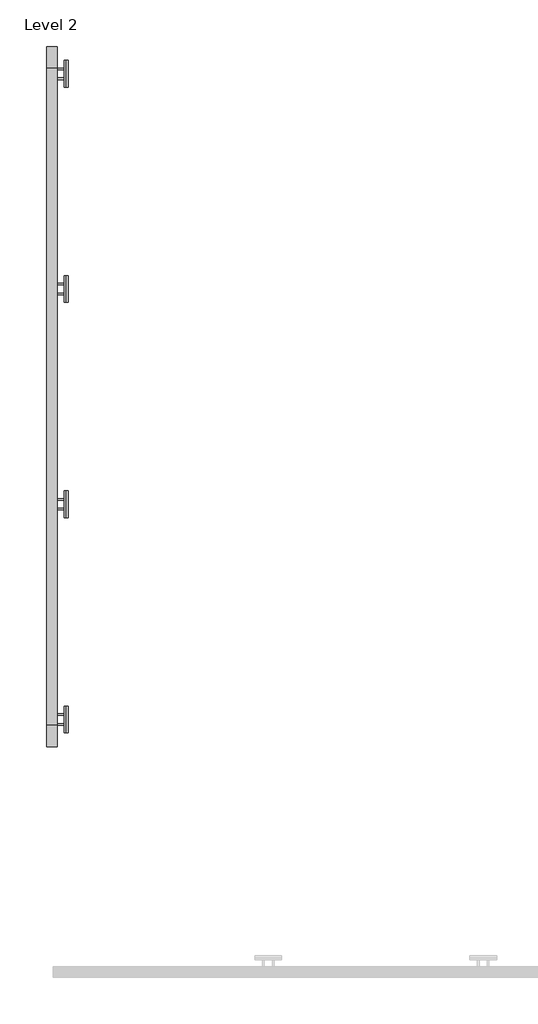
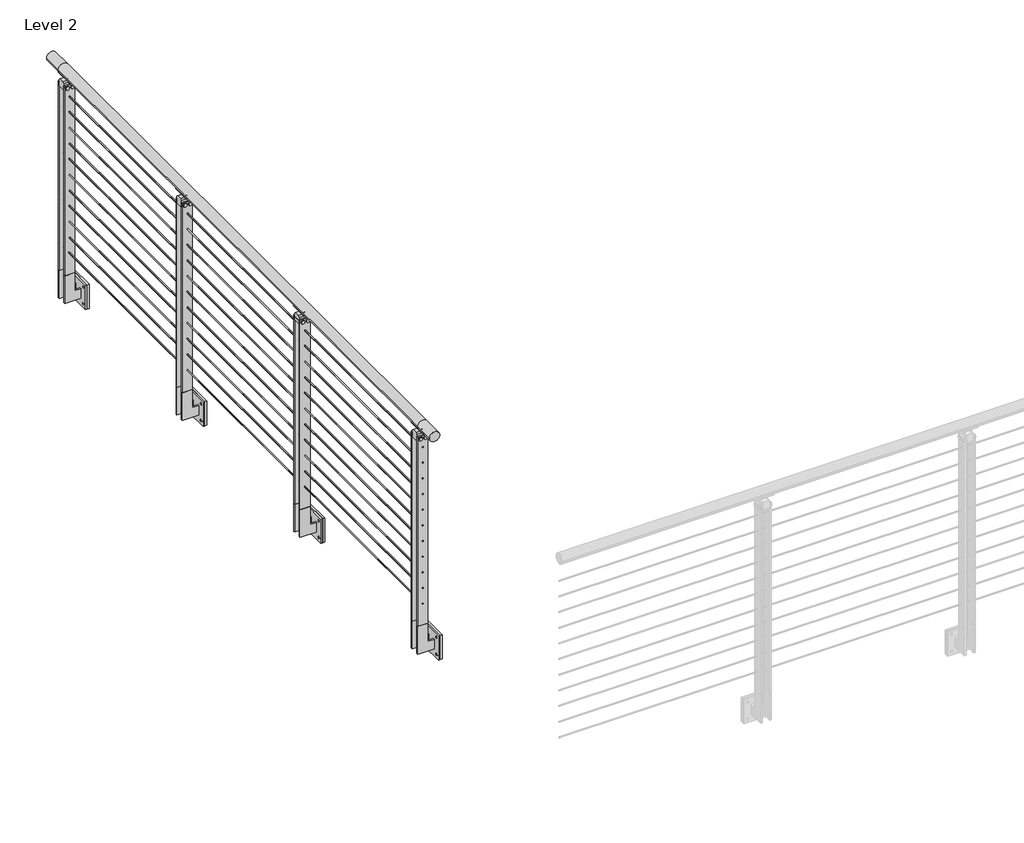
# One storey, part 5 of 31: 1 railing.
"""IFC4 building model written with IfcOpenShell, lengths in millimetres."""

from ifc_helpers import new_model, si_unit, point, frame, frame_2d, origin, place, context, project, spatial, polyline, circle_curve, trimmed, segment, composite_curve, outline, extrude, element, save
from ifc_brep_helpers import plane_surface, cylinder_surface, revolved_surface, advanced_brep

model = new_model("IFC4")

# Units and contexts
model_context = context("Model", 3, world=origin())
ifc_project = project(units=[si_unit("LENGTHUNIT", "METRE", prefix="MILLI")], contexts=[model_context])

# Site, building, storey
site = spatial("IfcSite", under=ifc_project)
building = spatial("IfcBuilding", under=site)
storey = spatial("IfcBuildingStorey", under=building, Name="Level 2", Elevation=3048.0)

# Railing
placement = place(None, origin())
element("IfcRailing", 1, ObjectType="VIVA-BLADE-Cable-Fascia Mount-Straight", at=placement, inside=storey, context=model_context, shape_type="SolidModel", body=[
    advanced_brep(
    [(-9214.9164794, -51256.5941551, 4102.1), (-9265.7164794, -51256.5941551, 4102.1), (-9214.9164794, -51154.9941551, 4102.1), (-9265.7164794, -51154.9941551, 4102.1), (-9214.9164794, -48053.4426165, 4102.1), (-9265.7164794, -48053.4426165, 4102.1), (-9214.9164794, -47951.8426165, 4102.1), (-9265.7164794, -47951.8426165, 4102.1)],
    [
        (0, 1, circle_curve(frame((-9240.3164794, -51256.5941551, 4102.1), z_axis=(0.0, -1.0, 0.0), x_axis=(-1.0, 0.0, 0.0)), 25.4)),
        (1, 0, circle_curve(frame((-9240.3164794, -51256.5941551, 4102.1), z_axis=(0.0, -1.0, 0.0), x_axis=(-1.0, 0.0, 0.0)), 25.4)),
        (0, 2),
        (2, 3, circle_curve(frame((-9240.3164794, -51154.9941551, 4102.1), z_axis=(0.0, -1.0, 0.0), x_axis=(-1.0, 0.0, 0.0)), 25.4)),
        (3, 1),
        (3, 2, circle_curve(frame((-9240.3164794, -51154.9941551, 4102.1), z_axis=(0.0, -1.0, 0.0), x_axis=(-1.0, 0.0, 0.0)), 25.4)),
        (2, 4),
        (4, 5, circle_curve(frame((-9240.3164794, -48053.4426165, 4102.1), z_axis=(0.0, -1.0, 0.0), x_axis=(-1.0, 0.0, 0.0)), 25.4)),
        (5, 3),
        (5, 4, circle_curve(frame((-9240.3164794, -48053.4426165, 4102.1), z_axis=(0.0, -1.0, 0.0), x_axis=(-1.0, 0.0, 0.0)), 25.4)),
        (6, 7, circle_curve(frame((-9240.3164794, -47951.8426165, 4102.1), z_axis=(0.0, 1.0, 0.0), x_axis=(-1.0, 0.0, 0.0)), 25.4)),
        (7, 6, circle_curve(frame((-9240.3164794, -47951.8426165, 4102.1), z_axis=(0.0, 1.0, 0.0), x_axis=(-1.0, 0.0, 0.0)), 25.4)),
        (4, 6),
        (7, 5),
    ],
    [
        plane_surface(frame((-9240.3164794, -51256.5941551, 4127.5), z_axis=(0.0, -1.0, 0.0), x_axis=(0.0, 0.0, 1.0))),
        cylinder_surface(frame((-9240.3164794, -51256.5941551, 4102.1), z_axis=(0.0, -1.0, 0.0), x_axis=(-1.0, 0.0, 0.0)), 25.4),
        cylinder_surface(frame((-9240.3164794, -51154.9941551, 4102.1), z_axis=(0.0, -1.0, 0.0), x_axis=(-1.0, 0.0, 0.0)), 25.4),
        plane_surface(frame((-9240.3164794, -47951.8426165, 4127.5), z_axis=(0.0, 1.0, 0.0), x_axis=(0.0, 0.0, 1.0))),
        cylinder_surface(frame((-9240.3164794, -48053.4426165, 4102.1), z_axis=(0.0, -1.0, 0.0), x_axis=(-1.0, 0.0, 0.0)), 25.4),
    ],
    [
        (0, [[1, 2]]),
        (1, [[-1, 3, 4, 5]]),
        (1, [[-2, -5, 6, -3]]),
        (2, [[-4, 7, 8, 9]]),
        (2, [[-6, -9, 10, -7]]),
        (3, [[11, 12]]),
        (4, [[-8, 13, -12, 14]]),
        (4, [[-10, -14, -11, -13]]),
    ],
),
    extrude(outline(composite_curve([segment(trimmed(circle_curve(frame_2d((3985.4124, -9240.3164794)), 2.3876), [point((3985.4124, -9237.9288794))], [point((3985.4124, -9242.7040794))], False, "CARTESIAN"), True, "CONTINUOUS"), segment(trimmed(circle_curve(frame_2d((3985.4124, -9240.3164794)), 2.3876), [point((3985.4124, -9242.7040794))], [point((3985.4124, -9237.9288794))], False, "CARTESIAN"), True, "CONTINUOUS")], self_intersect=False)), frame((0.0, -51154.9941551, 0.0), z_axis=(0.0, 1.0, 0.0), x_axis=(0.0, 0.0, 1.0)), (0.0, 0.0, 1.0), 3101.5515385),
    extrude(outline(composite_curve([segment(trimmed(circle_curve(frame_2d((3902.8624, -9240.3164794)), 2.3876), [point((3902.8624, -9237.9288794))], [point((3902.8624, -9242.7040794))], False, "CARTESIAN"), True, "CONTINUOUS"), segment(trimmed(circle_curve(frame_2d((3902.8624, -9240.3164794)), 2.3876), [point((3902.8624, -9242.7040794))], [point((3902.8624, -9237.9288794))], False, "CARTESIAN"), True, "CONTINUOUS")], self_intersect=False)), frame((0.0, -51154.9941551, 0.0), z_axis=(0.0, 1.0, 0.0), x_axis=(0.0, 0.0, 1.0)), (0.0, 0.0, 1.0), 3101.5515385),
    extrude(outline(composite_curve([segment(trimmed(circle_curve(frame_2d((3820.3124, -9240.3164794)), 2.3876), [point((3820.3124, -9237.9288794))], [point((3820.3124, -9242.7040794))], False, "CARTESIAN"), True, "CONTINUOUS"), segment(trimmed(circle_curve(frame_2d((3820.3124, -9240.3164794)), 2.3876), [point((3820.3124, -9242.7040794))], [point((3820.3124, -9237.9288794))], False, "CARTESIAN"), True, "CONTINUOUS")], self_intersect=False)), frame((0.0, -51154.9941551, 0.0), z_axis=(0.0, 1.0, 0.0), x_axis=(0.0, 0.0, 1.0)), (0.0, 0.0, 1.0), 3101.5515385),
    extrude(outline(composite_curve([segment(trimmed(circle_curve(frame_2d((3737.7624, -9240.3164794)), 2.3876), [point((3737.7624, -9237.9288794))], [point((3737.7624, -9242.7040794))], False, "CARTESIAN"), True, "CONTINUOUS"), segment(trimmed(circle_curve(frame_2d((3737.7624, -9240.3164794)), 2.3876), [point((3737.7624, -9242.7040794))], [point((3737.7624, -9237.9288794))], False, "CARTESIAN"), True, "CONTINUOUS")], self_intersect=False)), frame((0.0, -51154.9941551, 0.0), z_axis=(0.0, 1.0, 0.0), x_axis=(0.0, 0.0, 1.0)), (0.0, 0.0, 1.0), 3101.5515385),
    extrude(outline(composite_curve([segment(trimmed(circle_curve(frame_2d((3655.2124, -9240.3164794)), 2.3876), [point((3655.2124, -9237.9288794))], [point((3655.2124, -9242.7040794))], False, "CARTESIAN"), True, "CONTINUOUS"), segment(trimmed(circle_curve(frame_2d((3655.2124, -9240.3164794)), 2.3876), [point((3655.2124, -9242.7040794))], [point((3655.2124, -9237.9288794))], False, "CARTESIAN"), True, "CONTINUOUS")], self_intersect=False)), frame((0.0, -51154.9941551, 0.0), z_axis=(0.0, 1.0, 0.0), x_axis=(0.0, 0.0, 1.0)), (0.0, 0.0, 1.0), 3101.5515385),
    extrude(outline(composite_curve([segment(trimmed(circle_curve(frame_2d((3572.6624, -9240.3164794)), 2.3876), [point((3572.6624, -9237.9288794))], [point((3572.6624, -9242.7040794))], False, "CARTESIAN"), True, "CONTINUOUS"), segment(trimmed(circle_curve(frame_2d((3572.6624, -9240.3164794)), 2.3876), [point((3572.6624, -9242.7040794))], [point((3572.6624, -9237.9288794))], False, "CARTESIAN"), True, "CONTINUOUS")], self_intersect=False)), frame((0.0, -51154.9941551, 0.0), z_axis=(0.0, 1.0, 0.0), x_axis=(0.0, 0.0, 1.0)), (0.0, 0.0, 1.0), 3101.5515385),
    extrude(outline(composite_curve([segment(trimmed(circle_curve(frame_2d((3490.1124, -9240.3164794)), 2.3876), [point((3490.1124, -9237.9288794))], [point((3490.1124, -9242.7040794))], False, "CARTESIAN"), True, "CONTINUOUS"), segment(trimmed(circle_curve(frame_2d((3490.1124, -9240.3164794)), 2.3876), [point((3490.1124, -9242.7040794))], [point((3490.1124, -9237.9288794))], False, "CARTESIAN"), True, "CONTINUOUS")], self_intersect=False)), frame((0.0, -51154.9941551, 0.0), z_axis=(0.0, 1.0, 0.0), x_axis=(0.0, 0.0, 1.0)), (0.0, 0.0, 1.0), 3101.5515385),
    extrude(outline(composite_curve([segment(trimmed(circle_curve(frame_2d((3407.5624, -9240.3164794)), 2.3876), [point((3407.5624, -9237.9288794))], [point((3407.5624, -9242.7040794))], False, "CARTESIAN"), True, "CONTINUOUS"), segment(trimmed(circle_curve(frame_2d((3407.5624, -9240.3164794)), 2.3876), [point((3407.5624, -9242.7040794))], [point((3407.5624, -9237.9288794))], False, "CARTESIAN"), True, "CONTINUOUS")], self_intersect=False)), frame((0.0, -51154.9941551, 0.0), z_axis=(0.0, 1.0, 0.0), x_axis=(0.0, 0.0, 1.0)), (0.0, 0.0, 1.0), 3101.5515385),
    extrude(outline(composite_curve([segment(trimmed(circle_curve(frame_2d((3325.0124, -9240.3164794)), 2.3876), [point((3325.0124, -9237.9288794))], [point((3325.0124, -9242.7040794))], False, "CARTESIAN"), True, "CONTINUOUS"), segment(trimmed(circle_curve(frame_2d((3325.0124, -9240.3164794)), 2.3876), [point((3325.0124, -9242.7040794))], [point((3325.0124, -9237.9288794))], False, "CARTESIAN"), True, "CONTINUOUS")], self_intersect=False)), frame((0.0, -51154.9941551, 0.0), z_axis=(0.0, 1.0, 0.0), x_axis=(0.0, 0.0, 1.0)), (0.0, 0.0, 1.0), 3101.5515385),
    extrude(outline(composite_curve([segment(trimmed(circle_curve(frame_2d((3242.4624, -9240.3164794)), 2.3876), [point((3242.4624, -9237.9288794))], [point((3242.4624, -9242.7040794))], False, "CARTESIAN"), True, "CONTINUOUS"), segment(trimmed(circle_curve(frame_2d((3242.4624, -9240.3164794)), 2.3876), [point((3242.4624, -9242.7040794))], [point((3242.4624, -9237.9288794))], False, "CARTESIAN"), True, "CONTINUOUS")], self_intersect=False)), frame((0.0, -51154.9941551, 0.0), z_axis=(0.0, 1.0, 0.0), x_axis=(0.0, 0.0, 1.0)), (0.0, 0.0, 1.0), 3101.5515385),
    extrude(outline(composite_curve([segment(trimmed(circle_curve(frame_2d((3159.9124, -9240.3164794)), 2.3876), [point((3159.9124, -9237.9288794))], [point((3159.9124, -9242.7040794))], False, "CARTESIAN"), True, "CONTINUOUS"), segment(trimmed(circle_curve(frame_2d((3159.9124, -9240.3164794)), 2.3876), [point((3159.9124, -9242.7040794))], [point((3159.9124, -9237.9288794))], False, "CARTESIAN"), True, "CONTINUOUS")], self_intersect=False)), frame((0.0, -51154.9941551, 0.0), z_axis=(0.0, 1.0, 0.0), x_axis=(0.0, 0.0, 1.0)), (0.0, 0.0, 1.0), 3101.5515385),
    extrude(outline(polyline([(2901.95, -9265.7190073), (2901.95, -9183.1662737), (2952.75, -9183.1662737), (2952.75, -9214.9190073), (3048.0, -9214.9190073), (3048.0, -9265.7190073), (2901.95, -9265.7190073)])), frame((0.0, -48107.2932215, 0.0), z_axis=(0.0, 1.0, 0.0), x_axis=(0.0, 0.0, 1.0)), (0.0, 0.0, 1.0), 8.0248357),
    extrude(outline(polyline([(3048.0, -9214.9190073), (3048.0, -9265.7190073), (2901.95, -9265.7190073), (2901.95, -9183.1662737), (2952.75, -9183.1662737), (2952.75, -9214.9190073), (3048.0, -9214.9190073)])), frame((0.0, -48061.1684238, 0.0), z_axis=(0.0, 1.0, 0.0), x_axis=(0.0, 0.0, 1.0)), (0.0, 0.0, 1.0), 8.001),
    advanced_brep(
    [(-9227.5563557, -48034.9809858, 4080.0967655), (-9223.7204583, -48034.9809858, 4075.707533), (-9255.2373506, -48034.9809858, 4075.1267745), (-9252.4284203, -48034.9809858, 4079.9535285), (-9227.5563557, -48125.4557858, 4080.0967655), (-9252.5153924, -48125.4557858, 4080.0018447), (-9255.351144, -48125.4557858, 4075.1893964), (-9223.7204583, -48125.4557858, 4075.707533)],
    [
        (0, 1, circle_curve(frame((-9226.0087981, -48034.9809858, 4077.5784521), z_axis=(0.0, 1.0, 0.0), x_axis=(1.0, 0.0, 0.0)), 2.9558141)),
        (1, 2, circle_curve(frame((-9239.9866956, -48034.9809858, 4102.9742164), z_axis=(0.0, 1.0, 0.0), x_axis=(1.0, 0.0, 0.0)), 31.75)),
        (2, 3, circle_curve(frame((-9253.7600455, -48034.9809858, 4077.4993599), z_axis=(0.0, 1.0, 0.0), x_axis=(1.0, 0.0, 0.0)), 2.7949225)),
        (3, 0, circle_curve(frame((-9240.1201586, -48034.9809858, 4102.2115898), z_axis=(0.0, -1.0, 0.0), x_axis=(1.0, 0.0, 0.0)), 25.4345159)),
        (4, 5, circle_curve(frame((-9240.1201586, -48125.4557858, 4102.2115898), z_axis=(0.0, 1.0, 0.0), x_axis=(1.0, 0.0, 0.0)), 25.4345159)),
        (5, 6, circle_curve(frame((-9253.7600455, -48125.4557858, 4077.4993599), z_axis=(0.0, -1.0, 0.0), x_axis=(1.0, 0.0, 0.0)), 2.7949225)),
        (6, 7, circle_curve(frame((-9239.9866956, -48125.4557858, 4102.9742164), z_axis=(0.0, -1.0, 0.0), x_axis=(1.0, 0.0, 0.0)), 31.75)),
        (7, 4, circle_curve(frame((-9226.0087981, -48125.4557858, 4077.5784521), z_axis=(0.0, -1.0, 0.0), x_axis=(1.0, 0.0, 0.0)), 2.9558141)),
        (3, 5),
        (4, 0),
        (2, 6),
        (1, 7),
    ],
    [
        plane_surface(frame((-9214.6856428, -48034.9809858, 4102.2115898), z_axis=(0.0, 1.0, 0.0), x_axis=(0.0, 0.0, -1.0))),
        plane_surface(frame((-9214.6856428, -48125.4557858, 4102.2115898), z_axis=(0.0, -1.0, 0.0), x_axis=(0.0, 0.0, 1.0))),
        revolved_surface(polyline([(-9214.6856427, -48125.4557858, 4102.2115898), (-9214.6856427, -48034.9809858, 4102.2115898)]), (-9240.1201586, -48125.4557858, 4102.2115898), (0.0, -1.0, 0.0)),
        cylinder_surface(frame((-9253.7600455, -48125.4557858, 4077.4993599), z_axis=(0.0, 1.0, 0.0), x_axis=(1.0, 0.0, 0.0)), 2.7949225),
        cylinder_surface(frame((-9239.9866956, -48125.4557858, 4102.9742164), z_axis=(0.0, 1.0, 0.0), x_axis=(1.0, 0.0, 0.0)), 31.75),
        cylinder_surface(frame((-9226.0087981, -48125.4557858, 4077.5784521), z_axis=(0.0, 1.0, 0.0), x_axis=(1.0, 0.0, 0.0)), 2.9558141),
    ],
    [
        (0, [[1, 2, 3, 4]]),
        (1, [[5, 6, 7, 8]]),
        (2, [[9, -5, 10, -4]]),
        (3, [[11, -6, -9, -3]]),
        (4, [[12, -7, -11, -2]]),
        (5, [[-10, -8, -12, -1]]),
    ],
),
    extrude(outline(polyline([(-9164.1162737, -48016.7303227), (-9164.1162737, -48143.7303227), (-9173.6412737, -48143.7303227), (-9173.6412737, -48016.7303227), (-9164.1162737, -48016.7303227)])), frame((0.0, 0.0, 2863.85), z_axis=(0.0, 0.0, 1.0), x_axis=(1.0, 0.0, 0.0)), (0.0, 0.0, 1.0), 127.0),
    extrude(outline(composite_curve([segment(polyline([(-48067.5183858, 4062.4125), (-48092.9183858, 4062.4125)]), True, "CONTINUOUS"), segment(trimmed(circle_curve(frame_2d((-48107.2863007, 4062.4125)), 14.3679149), [point((-48092.9183858, 4062.4125))], [point((-48107.2863007, 4076.7804149))], True, "CARTESIAN"), True, "CONTINUOUS"), segment(polyline([(-48107.2863007, 4076.7804149), (-48053.1504709, 4076.7804149)]), True, "CONTINUOUS"), segment(trimmed(circle_curve(frame_2d((-48053.1504709, 4062.4125)), 14.3679149), [point((-48053.1504709, 4076.7804149))], [point((-48067.5183858, 4062.4125))], True, "CARTESIAN"), True, "CONTINUOUS")], self_intersect=False)), frame((-9242.8564794, 0.0, 0.0), z_axis=(1.0, 0.0, 0.0), x_axis=(0.0, 1.0, 0.0)), (0.0, 0.0, 1.0), 5.08),
    extrude(outline(polyline([(-9214.9166827, -48107.2932215), (-9265.7190073, -48107.2932215), (-9265.7190073, -48099.2683858), (-9214.9166827, -48099.2683858), (-9214.9166827, -48107.2932215)])), frame((0.0, 0.0, 3048.0), z_axis=(0.0, 0.0, 1.0), x_axis=(1.0, 0.0, 0.0)), (0.0, 0.0, 1.0), 996.95),
    extrude(outline(polyline([(-48143.7303227, 2863.85), (-48143.7303227, 2990.85), (-48016.7303227, 2990.85), (-48016.7303227, 2863.85), (-48143.7303227, 2863.85)]), holes=[composite_curve([segment(trimmed(circle_curve(frame_2d((-48124.6803227, 2971.8)), 4.7068371), [point((-48119.9734856, 2971.8))], [point((-48129.3871597, 2971.8))], True, "CARTESIAN"), True, "CONTINUOUS"), segment(trimmed(circle_curve(frame_2d((-48124.6803227, 2971.8)), 4.7068371), [point((-48129.3871597, 2971.8))], [point((-48119.9734856, 2971.8))], True, "CARTESIAN"), True, "CONTINUOUS")], self_intersect=False), composite_curve([segment(trimmed(circle_curve(frame_2d((-48035.7803227, 2971.8)), 4.7068371), [point((-48031.0734856, 2971.8))], [point((-48040.4871597, 2971.8))], True, "CARTESIAN"), True, "CONTINUOUS"), segment(trimmed(circle_curve(frame_2d((-48035.7803227, 2971.8)), 4.7068371), [point((-48040.4871597, 2971.8))], [point((-48031.0734856, 2971.8))], True, "CARTESIAN"), True, "CONTINUOUS")], self_intersect=False), composite_curve([segment(trimmed(circle_curve(frame_2d((-48035.7803227, 2882.9)), 4.7068371), [point((-48031.0734856, 2882.9))], [point((-48040.4871597, 2882.9))], True, "CARTESIAN"), True, "CONTINUOUS"), segment(trimmed(circle_curve(frame_2d((-48035.7803227, 2882.9)), 4.7068371), [point((-48040.4871597, 2882.9))], [point((-48031.0734856, 2882.9))], True, "CARTESIAN"), True, "CONTINUOUS")], self_intersect=False), composite_curve([segment(trimmed(circle_curve(frame_2d((-48124.6803227, 2882.9)), 4.7068371), [point((-48119.9734856, 2882.9))], [point((-48129.3871597, 2882.9))], True, "CARTESIAN"), True, "CONTINUOUS"), segment(trimmed(circle_curve(frame_2d((-48124.6803227, 2882.9)), 4.7068371), [point((-48129.3871597, 2882.9))], [point((-48119.9734856, 2882.9))], True, "CARTESIAN"), True, "CONTINUOUS")], self_intersect=False)]), frame((-9183.1662737, 0.0, 0.0), z_axis=(1.0, 0.0, 0.0), x_axis=(0.0, 1.0, 0.0)), (0.0, 0.0, 1.0), 9.525),
    extrude(outline(composite_curve([segment(trimmed(circle_curve(frame_2d((4034.0416929, -9253.0189563)), 8.89), [point((4034.0416929, -9261.9089563))], [point((4034.0416929, -9244.1289563))], False, "CARTESIAN"), True, "CONTINUOUS"), segment(trimmed(circle_curve(frame_2d((4034.0416929, -9253.0189563)), 8.89), [point((4034.0416929, -9244.1289563))], [point((4034.0416929, -9261.9089563))], False, "CARTESIAN"), True, "CONTINUOUS")], self_intersect=False)), frame((0.0, -48111.9683858, 0.0), z_axis=(0.0, 1.0, 0.0), x_axis=(0.0, 0.0, 1.0)), (0.0, 0.0, 1.0), 63.4880631),
    extrude(outline(composite_curve([segment(trimmed(circle_curve(frame_2d((4034.0416929, -9227.6190583)), 8.89), [point((4034.0416929, -9236.5090583))], [point((4034.0416929, -9218.7290583))], False, "CARTESIAN"), True, "CONTINUOUS"), segment(trimmed(circle_curve(frame_2d((4034.0416929, -9227.6190583)), 8.89), [point((4034.0416929, -9218.7290583))], [point((4034.0416929, -9236.5090583))], False, "CARTESIAN"), True, "CONTINUOUS")], self_intersect=False)), frame((0.0, -48111.9683858, 0.0), z_axis=(0.0, 1.0, 0.0), x_axis=(0.0, 0.0, 1.0)), (0.0, 0.0, 1.0), 63.4880631),
    extrude(outline(polyline([(-48099.2683858, 4022.7123), (-48099.2683858, 4056.0625), (-48092.9183858, 4062.4125), (-48067.5183858, 4062.4125), (-48061.1683858, 4056.0625), (-48061.1683858, 4022.7123), (-48099.2683858, 4022.7123)])), frame((-9265.7190073, 0.0, 0.0), z_axis=(1.0, 0.0, 0.0), x_axis=(0.0, 1.0, 0.0)), (0.0, 0.0, 1.0), 50.8025279),
    extrude(outline(polyline([(-9214.9166827, -48061.1684238), (-9265.7190073, -48061.1684238), (-9265.7190073, -48053.1674238), (-9214.9166827, -48053.1674238), (-9214.9166827, -48061.1684238)])), frame((0.0, 0.0, 3048.0), z_axis=(0.0, 0.0, 1.0), x_axis=(1.0, 0.0, 0.0)), (0.0, 0.0, 1.0), 996.95),
    extrude(outline(polyline([(2901.95, -9265.7190073), (2901.95, -9183.1662737), (2952.75, -9183.1662737), (2952.75, -9214.9190073), (3048.0, -9214.9190073), (3048.0, -9265.7190073), (2901.95, -9265.7190073)])), frame((0.0, -49123.2932215, 0.0), z_axis=(0.0, 1.0, 0.0), x_axis=(0.0, 0.0, 1.0)), (0.0, 0.0, 1.0), 8.0248357),
    extrude(outline(polyline([(3048.0, -9214.9190073), (3048.0, -9265.7190073), (2901.95, -9265.7190073), (2901.95, -9183.1662737), (2952.75, -9183.1662737), (2952.75, -9214.9190073), (3048.0, -9214.9190073)])), frame((0.0, -49077.1684238, 0.0), z_axis=(0.0, 1.0, 0.0), x_axis=(0.0, 0.0, 1.0)), (0.0, 0.0, 1.0), 8.001),
    advanced_brep(
    [(-9227.5563557, -49050.9809858, 4080.0967655), (-9223.7204583, -49050.9809858, 4075.707533), (-9255.2373506, -49050.9809858, 4075.1267745), (-9252.4284203, -49050.9809858, 4079.9535285), (-9227.5563557, -49141.4557858, 4080.0967655), (-9252.5153924, -49141.4557858, 4080.0018447), (-9255.351144, -49141.4557858, 4075.1893964), (-9223.7204583, -49141.4557858, 4075.707533)],
    [
        (0, 1, circle_curve(frame((-9226.0087981, -49050.9809858, 4077.5784521), z_axis=(0.0, 1.0, 0.0), x_axis=(1.0, 0.0, 0.0)), 2.9558141)),
        (1, 2, circle_curve(frame((-9239.9866956, -49050.9809858, 4102.9742164), z_axis=(0.0, 1.0, 0.0), x_axis=(1.0, 0.0, 0.0)), 31.75)),
        (2, 3, circle_curve(frame((-9253.7600455, -49050.9809858, 4077.4993599), z_axis=(0.0, 1.0, 0.0), x_axis=(1.0, 0.0, 0.0)), 2.7949225)),
        (3, 0, circle_curve(frame((-9240.1201586, -49050.9809858, 4102.2115898), z_axis=(0.0, -1.0, 0.0), x_axis=(1.0, 0.0, 0.0)), 25.4345159)),
        (4, 5, circle_curve(frame((-9240.1201586, -49141.4557858, 4102.2115898), z_axis=(0.0, 1.0, 0.0), x_axis=(1.0, 0.0, 0.0)), 25.4345159)),
        (5, 6, circle_curve(frame((-9253.7600455, -49141.4557858, 4077.4993599), z_axis=(0.0, -1.0, 0.0), x_axis=(1.0, 0.0, 0.0)), 2.7949225)),
        (6, 7, circle_curve(frame((-9239.9866956, -49141.4557858, 4102.9742164), z_axis=(0.0, -1.0, 0.0), x_axis=(1.0, 0.0, 0.0)), 31.75)),
        (7, 4, circle_curve(frame((-9226.0087981, -49141.4557858, 4077.5784521), z_axis=(0.0, -1.0, 0.0), x_axis=(1.0, 0.0, 0.0)), 2.9558141)),
        (3, 5),
        (4, 0),
        (2, 6),
        (1, 7),
    ],
    [
        plane_surface(frame((-9214.6856428, -49050.9809858, 4102.2115898), z_axis=(0.0, 1.0, 0.0), x_axis=(0.0, 0.0, -1.0))),
        plane_surface(frame((-9214.6856428, -49141.4557858, 4102.2115898), z_axis=(0.0, -1.0, 0.0), x_axis=(0.0, 0.0, 1.0))),
        revolved_surface(polyline([(-9214.6856427, -49141.4557858, 4102.2115898), (-9214.6856427, -49050.9809858, 4102.2115898)]), (-9240.1201586, -49141.4557858, 4102.2115898), (0.0, -1.0, 0.0)),
        cylinder_surface(frame((-9253.7600455, -49141.4557858, 4077.4993599), z_axis=(0.0, 1.0, 0.0), x_axis=(1.0, 0.0, 0.0)), 2.7949225),
        cylinder_surface(frame((-9239.9866956, -49141.4557858, 4102.9742164), z_axis=(0.0, 1.0, 0.0), x_axis=(1.0, 0.0, 0.0)), 31.75),
        cylinder_surface(frame((-9226.0087981, -49141.4557858, 4077.5784521), z_axis=(0.0, 1.0, 0.0), x_axis=(1.0, 0.0, 0.0)), 2.9558141),
    ],
    [
        (0, [[1, 2, 3, 4]]),
        (1, [[5, 6, 7, 8]]),
        (2, [[9, -5, 10, -4]]),
        (3, [[11, -6, -9, -3]]),
        (4, [[12, -7, -11, -2]]),
        (5, [[-10, -8, -12, -1]]),
    ],
),
    extrude(outline(polyline([(-9164.1162737, -49032.7303227), (-9164.1162737, -49159.7303227), (-9173.6412737, -49159.7303227), (-9173.6412737, -49032.7303227), (-9164.1162737, -49032.7303227)])), frame((0.0, 0.0, 2863.85), z_axis=(0.0, 0.0, 1.0), x_axis=(1.0, 0.0, 0.0)), (0.0, 0.0, 1.0), 127.0),
    extrude(outline(composite_curve([segment(polyline([(-49083.5183858, 4062.4125), (-49108.9183858, 4062.4125)]), True, "CONTINUOUS"), segment(trimmed(circle_curve(frame_2d((-49123.2863007, 4062.4125)), 14.3679149), [point((-49108.9183858, 4062.4125))], [point((-49123.2863007, 4076.7804149))], True, "CARTESIAN"), True, "CONTINUOUS"), segment(polyline([(-49123.2863007, 4076.7804149), (-49069.1504709, 4076.7804149)]), True, "CONTINUOUS"), segment(trimmed(circle_curve(frame_2d((-49069.1504709, 4062.4125)), 14.3679149), [point((-49069.1504709, 4076.7804149))], [point((-49083.5183858, 4062.4125))], True, "CARTESIAN"), True, "CONTINUOUS")], self_intersect=False)), frame((-9242.8564794, 0.0, 0.0), z_axis=(1.0, 0.0, 0.0), x_axis=(0.0, 1.0, 0.0)), (0.0, 0.0, 1.0), 5.08),
    extrude(outline(polyline([(-9214.9166827, -49123.2932215), (-9265.7190073, -49123.2932215), (-9265.7190073, -49115.2683858), (-9214.9166827, -49115.2683858), (-9214.9166827, -49123.2932215)])), frame((0.0, 0.0, 3048.0), z_axis=(0.0, 0.0, 1.0), x_axis=(1.0, 0.0, 0.0)), (0.0, 0.0, 1.0), 996.95),
    extrude(outline(polyline([(-49159.7303227, 2863.85), (-49159.7303227, 2990.85), (-49032.7303227, 2990.85), (-49032.7303227, 2863.85), (-49159.7303227, 2863.85)]), holes=[composite_curve([segment(trimmed(circle_curve(frame_2d((-49140.6803227, 2971.8)), 4.7068371), [point((-49135.9734856, 2971.8))], [point((-49145.3871597, 2971.8))], True, "CARTESIAN"), True, "CONTINUOUS"), segment(trimmed(circle_curve(frame_2d((-49140.6803227, 2971.8)), 4.7068371), [point((-49145.3871597, 2971.8))], [point((-49135.9734856, 2971.8))], True, "CARTESIAN"), True, "CONTINUOUS")], self_intersect=False), composite_curve([segment(trimmed(circle_curve(frame_2d((-49051.7803227, 2971.8)), 4.7068371), [point((-49047.0734856, 2971.8))], [point((-49056.4871597, 2971.8))], True, "CARTESIAN"), True, "CONTINUOUS"), segment(trimmed(circle_curve(frame_2d((-49051.7803227, 2971.8)), 4.7068371), [point((-49056.4871597, 2971.8))], [point((-49047.0734856, 2971.8))], True, "CARTESIAN"), True, "CONTINUOUS")], self_intersect=False), composite_curve([segment(trimmed(circle_curve(frame_2d((-49051.7803227, 2882.9)), 4.7068371), [point((-49047.0734856, 2882.9))], [point((-49056.4871597, 2882.9))], True, "CARTESIAN"), True, "CONTINUOUS"), segment(trimmed(circle_curve(frame_2d((-49051.7803227, 2882.9)), 4.7068371), [point((-49056.4871597, 2882.9))], [point((-49047.0734856, 2882.9))], True, "CARTESIAN"), True, "CONTINUOUS")], self_intersect=False), composite_curve([segment(trimmed(circle_curve(frame_2d((-49140.6803227, 2882.9)), 4.7068371), [point((-49135.9734856, 2882.9))], [point((-49145.3871597, 2882.9))], True, "CARTESIAN"), True, "CONTINUOUS"), segment(trimmed(circle_curve(frame_2d((-49140.6803227, 2882.9)), 4.7068371), [point((-49145.3871597, 2882.9))], [point((-49135.9734856, 2882.9))], True, "CARTESIAN"), True, "CONTINUOUS")], self_intersect=False)]), frame((-9183.1662737, 0.0, 0.0), z_axis=(1.0, 0.0, 0.0), x_axis=(0.0, 1.0, 0.0)), (0.0, 0.0, 1.0), 9.525),
    extrude(outline(composite_curve([segment(trimmed(circle_curve(frame_2d((4034.0416929, -9253.0189563)), 8.89), [point((4034.0416929, -9261.9089563))], [point((4034.0416929, -9244.1289563))], False, "CARTESIAN"), True, "CONTINUOUS"), segment(trimmed(circle_curve(frame_2d((4034.0416929, -9253.0189563)), 8.89), [point((4034.0416929, -9244.1289563))], [point((4034.0416929, -9261.9089563))], False, "CARTESIAN"), True, "CONTINUOUS")], self_intersect=False)), frame((0.0, -49127.9683858, 0.0), z_axis=(0.0, 1.0, 0.0), x_axis=(0.0, 0.0, 1.0)), (0.0, 0.0, 1.0), 63.4880631),
    extrude(outline(composite_curve([segment(trimmed(circle_curve(frame_2d((4034.0416929, -9227.6190583)), 8.89), [point((4034.0416929, -9236.5090583))], [point((4034.0416929, -9218.7290583))], False, "CARTESIAN"), True, "CONTINUOUS"), segment(trimmed(circle_curve(frame_2d((4034.0416929, -9227.6190583)), 8.89), [point((4034.0416929, -9218.7290583))], [point((4034.0416929, -9236.5090583))], False, "CARTESIAN"), True, "CONTINUOUS")], self_intersect=False)), frame((0.0, -49127.9683858, 0.0), z_axis=(0.0, 1.0, 0.0), x_axis=(0.0, 0.0, 1.0)), (0.0, 0.0, 1.0), 63.4880631),
    extrude(outline(polyline([(-49115.2683858, 4022.7123), (-49115.2683858, 4056.0625), (-49108.9183858, 4062.4125), (-49083.5183858, 4062.4125), (-49077.1683858, 4056.0625), (-49077.1683858, 4022.7123), (-49115.2683858, 4022.7123)])), frame((-9265.7190073, 0.0, 0.0), z_axis=(1.0, 0.0, 0.0), x_axis=(0.0, 1.0, 0.0)), (0.0, 0.0, 1.0), 50.8025279),
    extrude(outline(polyline([(-9214.9166827, -49077.1684238), (-9265.7190073, -49077.1684238), (-9265.7190073, -49069.1674238), (-9214.9166827, -49069.1674238), (-9214.9166827, -49077.1684238)])), frame((0.0, 0.0, 3048.0), z_axis=(0.0, 0.0, 1.0), x_axis=(1.0, 0.0, 0.0)), (0.0, 0.0, 1.0), 996.95),
    extrude(outline(polyline([(2901.95, -9265.7190073), (2901.95, -9183.1662737), (2952.75, -9183.1662737), (2952.75, -9214.9190073), (3048.0, -9214.9190073), (3048.0, -9265.7190073), (2901.95, -9265.7190073)])), frame((0.0, -50139.2932215, 0.0), z_axis=(0.0, 1.0, 0.0), x_axis=(0.0, 0.0, 1.0)), (0.0, 0.0, 1.0), 8.0248357),
    extrude(outline(polyline([(3048.0, -9214.9190073), (3048.0, -9265.7190073), (2901.95, -9265.7190073), (2901.95, -9183.1662737), (2952.75, -9183.1662737), (2952.75, -9214.9190073), (3048.0, -9214.9190073)])), frame((0.0, -50093.1684238, 0.0), z_axis=(0.0, 1.0, 0.0), x_axis=(0.0, 0.0, 1.0)), (0.0, 0.0, 1.0), 8.001),
    advanced_brep(
    [(-9227.5563557, -50066.9809858, 4080.0967655), (-9223.7204583, -50066.9809858, 4075.707533), (-9255.2373506, -50066.9809858, 4075.1267745), (-9252.4284203, -50066.9809858, 4079.9535285), (-9227.5563557, -50157.4557858, 4080.0967655), (-9252.5153924, -50157.4557858, 4080.0018447), (-9255.351144, -50157.4557858, 4075.1893964), (-9223.7204583, -50157.4557858, 4075.707533)],
    [
        (0, 1, circle_curve(frame((-9226.0087981, -50066.9809858, 4077.5784521), z_axis=(0.0, 1.0, 0.0), x_axis=(1.0, 0.0, 0.0)), 2.9558141)),
        (1, 2, circle_curve(frame((-9239.9866956, -50066.9809858, 4102.9742164), z_axis=(0.0, 1.0, 0.0), x_axis=(1.0, 0.0, 0.0)), 31.75)),
        (2, 3, circle_curve(frame((-9253.7600455, -50066.9809858, 4077.4993599), z_axis=(0.0, 1.0, 0.0), x_axis=(1.0, 0.0, 0.0)), 2.7949225)),
        (3, 0, circle_curve(frame((-9240.1201586, -50066.9809858, 4102.2115898), z_axis=(0.0, -1.0, 0.0), x_axis=(1.0, 0.0, 0.0)), 25.4345159)),
        (4, 5, circle_curve(frame((-9240.1201586, -50157.4557858, 4102.2115898), z_axis=(0.0, 1.0, 0.0), x_axis=(1.0, 0.0, 0.0)), 25.4345159)),
        (5, 6, circle_curve(frame((-9253.7600455, -50157.4557858, 4077.4993599), z_axis=(0.0, -1.0, 0.0), x_axis=(1.0, 0.0, 0.0)), 2.7949225)),
        (6, 7, circle_curve(frame((-9239.9866956, -50157.4557858, 4102.9742164), z_axis=(0.0, -1.0, 0.0), x_axis=(1.0, 0.0, 0.0)), 31.75)),
        (7, 4, circle_curve(frame((-9226.0087981, -50157.4557858, 4077.5784521), z_axis=(0.0, -1.0, 0.0), x_axis=(1.0, 0.0, 0.0)), 2.9558141)),
        (3, 5),
        (4, 0),
        (2, 6),
        (1, 7),
    ],
    [
        plane_surface(frame((-9214.6856428, -50066.9809858, 4102.2115898), z_axis=(0.0, 1.0, 0.0), x_axis=(0.0, 0.0, -1.0))),
        plane_surface(frame((-9214.6856428, -50157.4557858, 4102.2115898), z_axis=(0.0, -1.0, 0.0), x_axis=(0.0, 0.0, 1.0))),
        revolved_surface(polyline([(-9214.6856427, -50157.4557858, 4102.2115898), (-9214.6856427, -50066.9809858, 4102.2115898)]), (-9240.1201586, -50157.4557858, 4102.2115898), (0.0, -1.0, 0.0)),
        cylinder_surface(frame((-9253.7600455, -50157.4557858, 4077.4993599), z_axis=(0.0, 1.0, 0.0), x_axis=(1.0, 0.0, 0.0)), 2.7949225),
        cylinder_surface(frame((-9239.9866956, -50157.4557858, 4102.9742164), z_axis=(0.0, 1.0, 0.0), x_axis=(1.0, 0.0, 0.0)), 31.75),
        cylinder_surface(frame((-9226.0087981, -50157.4557858, 4077.5784521), z_axis=(0.0, 1.0, 0.0), x_axis=(1.0, 0.0, 0.0)), 2.9558141),
    ],
    [
        (0, [[1, 2, 3, 4]]),
        (1, [[5, 6, 7, 8]]),
        (2, [[9, -5, 10, -4]]),
        (3, [[11, -6, -9, -3]]),
        (4, [[12, -7, -11, -2]]),
        (5, [[-10, -8, -12, -1]]),
    ],
),
    extrude(outline(polyline([(-9164.1162737, -50048.7303227), (-9164.1162737, -50175.7303227), (-9173.6412737, -50175.7303227), (-9173.6412737, -50048.7303227), (-9164.1162737, -50048.7303227)])), frame((0.0, 0.0, 2863.85), z_axis=(0.0, 0.0, 1.0), x_axis=(1.0, 0.0, 0.0)), (0.0, 0.0, 1.0), 127.0),
    extrude(outline(composite_curve([segment(polyline([(-50099.5183858, 4062.4125), (-50124.9183858, 4062.4125)]), True, "CONTINUOUS"), segment(trimmed(circle_curve(frame_2d((-50139.2863007, 4062.4125)), 14.3679149), [point((-50124.9183858, 4062.4125))], [point((-50139.2863007, 4076.7804149))], True, "CARTESIAN"), True, "CONTINUOUS"), segment(polyline([(-50139.2863007, 4076.7804149), (-50085.1504709, 4076.7804149)]), True, "CONTINUOUS"), segment(trimmed(circle_curve(frame_2d((-50085.1504709, 4062.4125)), 14.3679149), [point((-50085.1504709, 4076.7804149))], [point((-50099.5183858, 4062.4125))], True, "CARTESIAN"), True, "CONTINUOUS")], self_intersect=False)), frame((-9242.8564794, 0.0, 0.0), z_axis=(1.0, 0.0, 0.0), x_axis=(0.0, 1.0, 0.0)), (0.0, 0.0, 1.0), 5.08),
    extrude(outline(polyline([(-9214.9166827, -50139.2932215), (-9265.7190073, -50139.2932215), (-9265.7190073, -50131.2683858), (-9214.9166827, -50131.2683858), (-9214.9166827, -50139.2932215)])), frame((0.0, 0.0, 3048.0), z_axis=(0.0, 0.0, 1.0), x_axis=(1.0, 0.0, 0.0)), (0.0, 0.0, 1.0), 996.95),
    extrude(outline(polyline([(-50175.7303227, 2863.85), (-50175.7303227, 2990.85), (-50048.7303227, 2990.85), (-50048.7303227, 2863.85), (-50175.7303227, 2863.85)]), holes=[composite_curve([segment(trimmed(circle_curve(frame_2d((-50156.6803227, 2971.8)), 4.7068371), [point((-50151.9734856, 2971.8))], [point((-50161.3871597, 2971.8))], True, "CARTESIAN"), True, "CONTINUOUS"), segment(trimmed(circle_curve(frame_2d((-50156.6803227, 2971.8)), 4.7068371), [point((-50161.3871597, 2971.8))], [point((-50151.9734856, 2971.8))], True, "CARTESIAN"), True, "CONTINUOUS")], self_intersect=False), composite_curve([segment(trimmed(circle_curve(frame_2d((-50067.7803227, 2971.8)), 4.7068371), [point((-50063.0734856, 2971.8))], [point((-50072.4871597, 2971.8))], True, "CARTESIAN"), True, "CONTINUOUS"), segment(trimmed(circle_curve(frame_2d((-50067.7803227, 2971.8)), 4.7068371), [point((-50072.4871597, 2971.8))], [point((-50063.0734856, 2971.8))], True, "CARTESIAN"), True, "CONTINUOUS")], self_intersect=False), composite_curve([segment(trimmed(circle_curve(frame_2d((-50067.7803227, 2882.9)), 4.7068371), [point((-50063.0734856, 2882.9))], [point((-50072.4871597, 2882.9))], True, "CARTESIAN"), True, "CONTINUOUS"), segment(trimmed(circle_curve(frame_2d((-50067.7803227, 2882.9)), 4.7068371), [point((-50072.4871597, 2882.9))], [point((-50063.0734856, 2882.9))], True, "CARTESIAN"), True, "CONTINUOUS")], self_intersect=False), composite_curve([segment(trimmed(circle_curve(frame_2d((-50156.6803227, 2882.9)), 4.7068371), [point((-50151.9734856, 2882.9))], [point((-50161.3871597, 2882.9))], True, "CARTESIAN"), True, "CONTINUOUS"), segment(trimmed(circle_curve(frame_2d((-50156.6803227, 2882.9)), 4.7068371), [point((-50161.3871597, 2882.9))], [point((-50151.9734856, 2882.9))], True, "CARTESIAN"), True, "CONTINUOUS")], self_intersect=False)]), frame((-9183.1662737, 0.0, 0.0), z_axis=(1.0, 0.0, 0.0), x_axis=(0.0, 1.0, 0.0)), (0.0, 0.0, 1.0), 9.525),
    extrude(outline(composite_curve([segment(trimmed(circle_curve(frame_2d((4034.0416929, -9253.0189563)), 8.89), [point((4034.0416929, -9261.9089563))], [point((4034.0416929, -9244.1289563))], False, "CARTESIAN"), True, "CONTINUOUS"), segment(trimmed(circle_curve(frame_2d((4034.0416929, -9253.0189563)), 8.89), [point((4034.0416929, -9244.1289563))], [point((4034.0416929, -9261.9089563))], False, "CARTESIAN"), True, "CONTINUOUS")], self_intersect=False)), frame((0.0, -50143.9683858, 0.0), z_axis=(0.0, 1.0, 0.0), x_axis=(0.0, 0.0, 1.0)), (0.0, 0.0, 1.0), 63.4880631),
    extrude(outline(composite_curve([segment(trimmed(circle_curve(frame_2d((4034.0416929, -9227.6190583)), 8.89), [point((4034.0416929, -9236.5090583))], [point((4034.0416929, -9218.7290583))], False, "CARTESIAN"), True, "CONTINUOUS"), segment(trimmed(circle_curve(frame_2d((4034.0416929, -9227.6190583)), 8.89), [point((4034.0416929, -9218.7290583))], [point((4034.0416929, -9236.5090583))], False, "CARTESIAN"), True, "CONTINUOUS")], self_intersect=False)), frame((0.0, -50143.9683858, 0.0), z_axis=(0.0, 1.0, 0.0), x_axis=(0.0, 0.0, 1.0)), (0.0, 0.0, 1.0), 63.4880631),
    extrude(outline(polyline([(-50131.2683858, 4022.7123), (-50131.2683858, 4056.0625), (-50124.9183858, 4062.4125), (-50099.5183858, 4062.4125), (-50093.1683858, 4056.0625), (-50093.1683858, 4022.7123), (-50131.2683858, 4022.7123)])), frame((-9265.7190073, 0.0, 0.0), z_axis=(1.0, 0.0, 0.0), x_axis=(0.0, 1.0, 0.0)), (0.0, 0.0, 1.0), 50.8025279),
    extrude(outline(polyline([(-9214.9166827, -50093.1684238), (-9265.7190073, -50093.1684238), (-9265.7190073, -50085.1674238), (-9214.9166827, -50085.1674238), (-9214.9166827, -50093.1684238)])), frame((0.0, 0.0, 3048.0), z_axis=(0.0, 0.0, 1.0), x_axis=(1.0, 0.0, 0.0)), (0.0, 0.0, 1.0), 996.95),
    extrude(outline(polyline([(2901.95, -9265.7190073), (2901.95, -9183.1662737), (2952.75, -9183.1662737), (2952.75, -9214.9190073), (3048.0, -9214.9190073), (3048.0, -9265.7190073), (2901.95, -9265.7190073)])), frame((0.0, -51155.2932215, 0.0), z_axis=(0.0, 1.0, 0.0), x_axis=(0.0, 0.0, 1.0)), (0.0, 0.0, 1.0), 8.0248357),
    extrude(outline(polyline([(3048.0, -9214.9190073), (3048.0, -9265.7190073), (2901.95, -9265.7190073), (2901.95, -9183.1662737), (2952.75, -9183.1662737), (2952.75, -9214.9190073), (3048.0, -9214.9190073)])), frame((0.0, -51109.1684238, 0.0), z_axis=(0.0, 1.0, 0.0), x_axis=(0.0, 0.0, 1.0)), (0.0, 0.0, 1.0), 8.001),
    advanced_brep(
    [(-9227.5563557, -51082.9809858, 4080.0967655), (-9223.7204583, -51082.9809858, 4075.707533), (-9255.2373506, -51082.9809858, 4075.1267745), (-9252.4284203, -51082.9809858, 4079.9535285), (-9227.5563557, -51173.4557858, 4080.0967655), (-9252.5153924, -51173.4557858, 4080.0018447), (-9255.351144, -51173.4557858, 4075.1893964), (-9223.7204583, -51173.4557858, 4075.707533)],
    [
        (0, 1, circle_curve(frame((-9226.0087981, -51082.9809858, 4077.5784521), z_axis=(0.0, 1.0, 0.0), x_axis=(1.0, 0.0, 0.0)), 2.9558141)),
        (1, 2, circle_curve(frame((-9239.9866956, -51082.9809858, 4102.9742164), z_axis=(0.0, 1.0, 0.0), x_axis=(1.0, 0.0, 0.0)), 31.75)),
        (2, 3, circle_curve(frame((-9253.7600455, -51082.9809858, 4077.4993599), z_axis=(0.0, 1.0, 0.0), x_axis=(1.0, 0.0, 0.0)), 2.7949225)),
        (3, 0, circle_curve(frame((-9240.1201586, -51082.9809858, 4102.2115898), z_axis=(0.0, -1.0, 0.0), x_axis=(1.0, 0.0, 0.0)), 25.4345159)),
        (4, 5, circle_curve(frame((-9240.1201586, -51173.4557858, 4102.2115898), z_axis=(0.0, 1.0, 0.0), x_axis=(1.0, 0.0, 0.0)), 25.4345159)),
        (5, 6, circle_curve(frame((-9253.7600455, -51173.4557858, 4077.4993599), z_axis=(0.0, -1.0, 0.0), x_axis=(1.0, 0.0, 0.0)), 2.7949225)),
        (6, 7, circle_curve(frame((-9239.9866956, -51173.4557858, 4102.9742164), z_axis=(0.0, -1.0, 0.0), x_axis=(1.0, 0.0, 0.0)), 31.75)),
        (7, 4, circle_curve(frame((-9226.0087981, -51173.4557858, 4077.5784521), z_axis=(0.0, -1.0, 0.0), x_axis=(1.0, 0.0, 0.0)), 2.9558141)),
        (3, 5),
        (4, 0),
        (2, 6),
        (1, 7),
    ],
    [
        plane_surface(frame((-9214.6856428, -51082.9809858, 4102.2115898), z_axis=(0.0, 1.0, 0.0), x_axis=(0.0, 0.0, -1.0))),
        plane_surface(frame((-9214.6856428, -51173.4557858, 4102.2115898), z_axis=(0.0, -1.0, 0.0), x_axis=(0.0, 0.0, 1.0))),
        revolved_surface(polyline([(-9214.6856427, -51173.4557858, 4102.2115898), (-9214.6856427, -51082.9809858, 4102.2115898)]), (-9240.1201586, -51173.4557858, 4102.2115898), (0.0, -1.0, 0.0)),
        cylinder_surface(frame((-9253.7600455, -51173.4557858, 4077.4993599), z_axis=(0.0, 1.0, 0.0), x_axis=(1.0, 0.0, 0.0)), 2.7949225),
        cylinder_surface(frame((-9239.9866956, -51173.4557858, 4102.9742164), z_axis=(0.0, 1.0, 0.0), x_axis=(1.0, 0.0, 0.0)), 31.75),
        cylinder_surface(frame((-9226.0087981, -51173.4557858, 4077.5784521), z_axis=(0.0, 1.0, 0.0), x_axis=(1.0, 0.0, 0.0)), 2.9558141),
    ],
    [
        (0, [[1, 2, 3, 4]]),
        (1, [[5, 6, 7, 8]]),
        (2, [[9, -5, 10, -4]]),
        (3, [[11, -6, -9, -3]]),
        (4, [[12, -7, -11, -2]]),
        (5, [[-10, -8, -12, -1]]),
    ],
),
    extrude(outline(polyline([(-9164.1162737, -51064.7303227), (-9164.1162737, -51191.7303227), (-9173.6412737, -51191.7303227), (-9173.6412737, -51064.7303227), (-9164.1162737, -51064.7303227)])), frame((0.0, 0.0, 2863.85), z_axis=(0.0, 0.0, 1.0), x_axis=(1.0, 0.0, 0.0)), (0.0, 0.0, 1.0), 127.0),
    extrude(outline(composite_curve([segment(polyline([(-51115.5183858, 4062.4125), (-51140.9183858, 4062.4125)]), True, "CONTINUOUS"), segment(trimmed(circle_curve(frame_2d((-51155.2863007, 4062.4125)), 14.3679149), [point((-51140.9183858, 4062.4125))], [point((-51155.2863007, 4076.7804149))], True, "CARTESIAN"), True, "CONTINUOUS"), segment(polyline([(-51155.2863007, 4076.7804149), (-51101.1504709, 4076.7804149)]), True, "CONTINUOUS"), segment(trimmed(circle_curve(frame_2d((-51101.1504709, 4062.4125)), 14.3679149), [point((-51101.1504709, 4076.7804149))], [point((-51115.5183858, 4062.4125))], True, "CARTESIAN"), True, "CONTINUOUS")], self_intersect=False)), frame((-9242.8564794, 0.0, 0.0), z_axis=(1.0, 0.0, 0.0), x_axis=(0.0, 1.0, 0.0)), (0.0, 0.0, 1.0), 5.08),
    extrude(outline(polyline([(-9214.9166827, -51155.2932215), (-9265.7190073, -51155.2932215), (-9265.7190073, -51147.2683858), (-9214.9166827, -51147.2683858), (-9214.9166827, -51155.2932215)])), frame((0.0, 0.0, 3048.0), z_axis=(0.0, 0.0, 1.0), x_axis=(1.0, 0.0, 0.0)), (0.0, 0.0, 1.0), 996.95),
    extrude(outline(polyline([(-51191.7303227, 2863.85), (-51191.7303227, 2990.85), (-51064.7303227, 2990.85), (-51064.7303227, 2863.85), (-51191.7303227, 2863.85)]), holes=[composite_curve([segment(trimmed(circle_curve(frame_2d((-51172.6803227, 2971.8)), 4.7068371), [point((-51167.9734856, 2971.8))], [point((-51177.3871597, 2971.8))], True, "CARTESIAN"), True, "CONTINUOUS"), segment(trimmed(circle_curve(frame_2d((-51172.6803227, 2971.8)), 4.7068371), [point((-51177.3871597, 2971.8))], [point((-51167.9734856, 2971.8))], True, "CARTESIAN"), True, "CONTINUOUS")], self_intersect=False), composite_curve([segment(trimmed(circle_curve(frame_2d((-51083.7803227, 2971.8)), 4.7068371), [point((-51079.0734856, 2971.8))], [point((-51088.4871597, 2971.8))], True, "CARTESIAN"), True, "CONTINUOUS"), segment(trimmed(circle_curve(frame_2d((-51083.7803227, 2971.8)), 4.7068371), [point((-51088.4871597, 2971.8))], [point((-51079.0734856, 2971.8))], True, "CARTESIAN"), True, "CONTINUOUS")], self_intersect=False), composite_curve([segment(trimmed(circle_curve(frame_2d((-51083.7803227, 2882.9)), 4.7068371), [point((-51079.0734856, 2882.9))], [point((-51088.4871597, 2882.9))], True, "CARTESIAN"), True, "CONTINUOUS"), segment(trimmed(circle_curve(frame_2d((-51083.7803227, 2882.9)), 4.7068371), [point((-51088.4871597, 2882.9))], [point((-51079.0734856, 2882.9))], True, "CARTESIAN"), True, "CONTINUOUS")], self_intersect=False), composite_curve([segment(trimmed(circle_curve(frame_2d((-51172.6803227, 2882.9)), 4.7068371), [point((-51167.9734856, 2882.9))], [point((-51177.3871597, 2882.9))], True, "CARTESIAN"), True, "CONTINUOUS"), segment(trimmed(circle_curve(frame_2d((-51172.6803227, 2882.9)), 4.7068371), [point((-51177.3871597, 2882.9))], [point((-51167.9734856, 2882.9))], True, "CARTESIAN"), True, "CONTINUOUS")], self_intersect=False)]), frame((-9183.1662737, 0.0, 0.0), z_axis=(1.0, 0.0, 0.0), x_axis=(0.0, 1.0, 0.0)), (0.0, 0.0, 1.0), 9.525),
    extrude(outline(composite_curve([segment(trimmed(circle_curve(frame_2d((4034.0416929, -9253.0189563)), 8.89), [point((4034.0416929, -9261.9089563))], [point((4034.0416929, -9244.1289563))], False, "CARTESIAN"), True, "CONTINUOUS"), segment(trimmed(circle_curve(frame_2d((4034.0416929, -9253.0189563)), 8.89), [point((4034.0416929, -9244.1289563))], [point((4034.0416929, -9261.9089563))], False, "CARTESIAN"), True, "CONTINUOUS")], self_intersect=False)), frame((0.0, -51159.9683858, 0.0), z_axis=(0.0, 1.0, 0.0), x_axis=(0.0, 0.0, 1.0)), (0.0, 0.0, 1.0), 63.4880631),
    extrude(outline(composite_curve([segment(trimmed(circle_curve(frame_2d((4034.0416929, -9227.6190583)), 8.89), [point((4034.0416929, -9236.5090583))], [point((4034.0416929, -9218.7290583))], False, "CARTESIAN"), True, "CONTINUOUS"), segment(trimmed(circle_curve(frame_2d((4034.0416929, -9227.6190583)), 8.89), [point((4034.0416929, -9218.7290583))], [point((4034.0416929, -9236.5090583))], False, "CARTESIAN"), True, "CONTINUOUS")], self_intersect=False)), frame((0.0, -51159.9683858, 0.0), z_axis=(0.0, 1.0, 0.0), x_axis=(0.0, 0.0, 1.0)), (0.0, 0.0, 1.0), 63.4880631),
    extrude(outline(polyline([(-51147.2683858, 4022.7123), (-51147.2683858, 4056.0625), (-51140.9183858, 4062.4125), (-51115.5183858, 4062.4125), (-51109.1683858, 4056.0625), (-51109.1683858, 4022.7123), (-51147.2683858, 4022.7123)])), frame((-9265.7190073, 0.0, 0.0), z_axis=(1.0, 0.0, 0.0), x_axis=(0.0, 1.0, 0.0)), (0.0, 0.0, 1.0), 50.8025279),
    extrude(outline(polyline([(-9214.9166827, -51109.1684238), (-9265.7190073, -51109.1684238), (-9265.7190073, -51101.1674238), (-9214.9166827, -51101.1674238), (-9214.9166827, -51109.1684238)])), frame((0.0, 0.0, 3048.0), z_axis=(0.0, 0.0, 1.0), x_axis=(1.0, 0.0, 0.0)), (0.0, 0.0, 1.0), 996.95),
])

save(model, "model.ifc")
